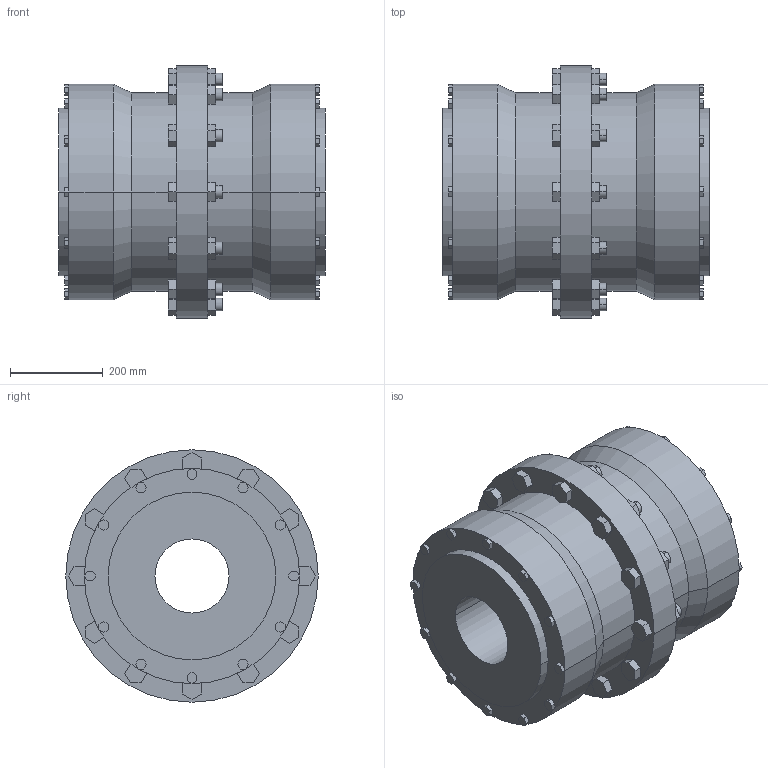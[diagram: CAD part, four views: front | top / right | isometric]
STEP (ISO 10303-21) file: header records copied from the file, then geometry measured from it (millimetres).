
FILE_DESCRIPTION((''),'2;1');
FILE_NAME('A18980800-0_ASM','2018-09-26T',('AB_Roschiwal'),('RENK AG'),'PRO/ENGINEER BY PARAMETRIC TECHNOLOGY CORPORATION, 2015440','PRO/ENGINEER BY PARAMETRIC TECHNOLOGY CORPORATION, 2015440','');
FILE_SCHEMA(('CONFIG_CONTROL_DESIGN'));
Length unit declared in the file: millimetre
Products named in the file (3): SBK225_GEHAEUSE; SBK225_NABE; A18980800-0_ASM
Assembly tree (3 placements, depth 2):
  A18980800-0_ASM
    SBK225_GEHAEUSE
    SBK225_NABE  x2
Bounding box: 576 x 545 x 545 mm (x, y, z)
Volume: 76506152.5 mm3; surface area: 3160343.7 mm2
Topology: 3 solids, 3 shells, 422 faces, 1036 edges, 688 vertices
Faces by surface type: plane 362, cylinder 56, cone 4
Entity records: 12052 total; most frequent: CARTESIAN_POINT 2100, ORIENTED_EDGE 2024, DIRECTION 1940, EDGE_CURVE 1012, VECTOR 916, LINE 916, VERTEX_POINT 672, AXIS2_PLACEMENT_3D 512
